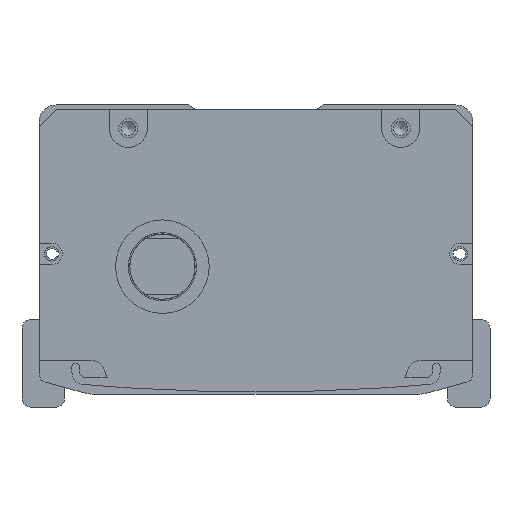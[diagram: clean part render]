
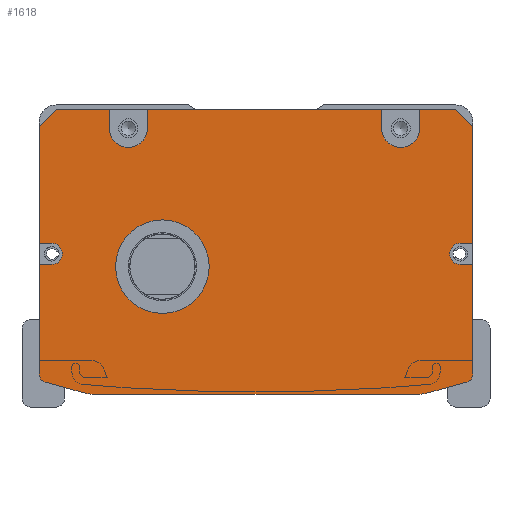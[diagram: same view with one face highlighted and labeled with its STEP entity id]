
A CAD part, front view. The second image highlights one B-rep face of the part: STEP entity #1618.
In plain terms, the highlighted planar face has unit normal (0, -1, 0).
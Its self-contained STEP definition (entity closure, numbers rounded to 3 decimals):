
#974=FACE_BOUND('',#3064,.T.);
#975=FACE_BOUND('',#3065,.T.);
#1618=ADVANCED_FACE('',(#974,#975),#2219,.F.);
#2219=PLANE('',#11855);
#3064=EDGE_LOOP('',(#5417,#5418,#5419,#5420,#5421,#5422,#5423,#5424,#5425,
#5426,#5427,#5428,#5429,#5430,#5431,#5432,#5433,#5434,#5435,#5436,#5437,
#5438,#5439,#5440,#5441,#5442,#5443,#5444));
#3065=EDGE_LOOP('',(#5445));
#4019=CIRCLE('',#11846,4.5);
#4020=CIRCLE('',#11847,4.5);
#4021=CIRCLE('',#11848,2.5);
#4022=CIRCLE('',#11849,2.);
#4023=CIRCLE('',#11850,10.);
#4024=CIRCLE('',#11851,10.);
#4025=CIRCLE('',#11852,2.);
#4026=CIRCLE('',#11853,2.5);
#4027=CIRCLE('',#11854,11.);
#5417=ORIENTED_EDGE('',*,*,#8746,.T.);
#5418=ORIENTED_EDGE('',*,*,#9162,.T.);
#5419=ORIENTED_EDGE('',*,*,#9163,.T.);
#5420=ORIENTED_EDGE('',*,*,#9164,.F.);
#5421=ORIENTED_EDGE('',*,*,#9165,.T.);
#5422=ORIENTED_EDGE('',*,*,#9166,.F.);
#5423=ORIENTED_EDGE('',*,*,#9167,.T.);
#5424=ORIENTED_EDGE('',*,*,#9168,.F.);
#5425=ORIENTED_EDGE('',*,*,#9169,.T.);
#5426=ORIENTED_EDGE('',*,*,#9170,.F.);
#5427=ORIENTED_EDGE('',*,*,#9171,.T.);
#5428=ORIENTED_EDGE('',*,*,#9172,.T.);
#5429=ORIENTED_EDGE('',*,*,#8778,.T.);
#5430=ORIENTED_EDGE('',*,*,#9173,.T.);
#5431=ORIENTED_EDGE('',*,*,#9174,.T.);
#5432=ORIENTED_EDGE('',*,*,#9175,.T.);
#5433=ORIENTED_EDGE('',*,*,#8774,.T.);
#5434=ORIENTED_EDGE('',*,*,#9176,.T.);
#5435=ORIENTED_EDGE('',*,*,#9177,.T.);
#5436=ORIENTED_EDGE('',*,*,#9178,.T.);
#5437=ORIENTED_EDGE('',*,*,#9179,.T.);
#5438=ORIENTED_EDGE('',*,*,#9180,.T.);
#5439=ORIENTED_EDGE('',*,*,#9181,.T.);
#5440=ORIENTED_EDGE('',*,*,#9182,.T.);
#5441=ORIENTED_EDGE('',*,*,#8750,.T.);
#5442=ORIENTED_EDGE('',*,*,#9183,.T.);
#5443=ORIENTED_EDGE('',*,*,#9184,.T.);
#5444=ORIENTED_EDGE('',*,*,#9185,.T.);
#5445=ORIENTED_EDGE('',*,*,#9186,.T.);
#7622=VERTEX_POINT('',#16324);
#7623=VERTEX_POINT('',#16326);
#7626=VERTEX_POINT('',#16332);
#7627=VERTEX_POINT('',#16334);
#7648=VERTEX_POINT('',#16379);
#7649=VERTEX_POINT('',#16381);
#7652=VERTEX_POINT('',#16387);
#7653=VERTEX_POINT('',#16389);
#7916=VERTEX_POINT('',#17182);
#7917=VERTEX_POINT('',#17184);
#7918=VERTEX_POINT('',#17186);
#7919=VERTEX_POINT('',#17188);
#7920=VERTEX_POINT('',#17190);
#7921=VERTEX_POINT('',#17192);
#7922=VERTEX_POINT('',#17194);
#7923=VERTEX_POINT('',#17196);
#7924=VERTEX_POINT('',#17198);
#7925=VERTEX_POINT('',#17200);
#7926=VERTEX_POINT('',#17203);
#7927=VERTEX_POINT('',#17205);
#7928=VERTEX_POINT('',#17208);
#7929=VERTEX_POINT('',#17210);
#7930=VERTEX_POINT('',#17212);
#7931=VERTEX_POINT('',#17214);
#7932=VERTEX_POINT('',#17216);
#7933=VERTEX_POINT('',#17218);
#7934=VERTEX_POINT('',#17221);
#7935=VERTEX_POINT('',#17223);
#7936=VERTEX_POINT('',#17226);
#8746=EDGE_CURVE('',#7623,#7622,#10189,.T.);
#8750=EDGE_CURVE('',#7627,#7626,#10193,.T.);
#8774=EDGE_CURVE('',#7649,#7648,#10217,.T.);
#8778=EDGE_CURVE('',#7653,#7652,#10221,.T.);
#9162=EDGE_CURVE('',#7622,#7916,#10454,.T.);
#9163=EDGE_CURVE('',#7916,#7917,#10455,.T.);
#9164=EDGE_CURVE('',#7918,#7917,#10456,.T.);
#9165=EDGE_CURVE('',#7918,#7919,#4019,.T.);
#9166=EDGE_CURVE('',#7920,#7919,#10457,.T.);
#9167=EDGE_CURVE('',#7920,#7921,#10458,.T.);
#9168=EDGE_CURVE('',#7922,#7921,#10459,.T.);
#9169=EDGE_CURVE('',#7922,#7923,#4020,.T.);
#9170=EDGE_CURVE('',#7924,#7923,#10460,.T.);
#9171=EDGE_CURVE('',#7924,#7925,#10461,.T.);
#9172=EDGE_CURVE('',#7925,#7653,#10462,.T.);
#9173=EDGE_CURVE('',#7652,#7926,#10463,.T.);
#9174=EDGE_CURVE('',#7926,#7927,#4021,.T.);
#9175=EDGE_CURVE('',#7927,#7649,#10464,.T.);
#9176=EDGE_CURVE('',#7648,#7928,#4022,.T.);
#9177=EDGE_CURVE('',#7928,#7929,#10465,.T.);
#9178=EDGE_CURVE('',#7929,#7930,#4023,.T.);
#9179=EDGE_CURVE('',#7930,#7931,#10466,.T.);
#9180=EDGE_CURVE('',#7931,#7932,#4024,.T.);
#9181=EDGE_CURVE('',#7932,#7933,#10467,.T.);
#9182=EDGE_CURVE('',#7933,#7627,#4025,.T.);
#9183=EDGE_CURVE('',#7626,#7934,#10468,.T.);
#9184=EDGE_CURVE('',#7934,#7935,#4026,.T.);
#9185=EDGE_CURVE('',#7935,#7623,#10469,.T.);
#9186=EDGE_CURVE('',#7936,#7936,#4027,.T.);
#10189=LINE('',#16325,#10842);
#10193=LINE('',#16333,#10846);
#10217=LINE('',#16380,#10870);
#10221=LINE('',#16388,#10874);
#10454=LINE('',#17181,#11107);
#10455=LINE('',#17183,#11108);
#10456=LINE('',#17185,#11109);
#10457=LINE('',#17189,#11110);
#10458=LINE('',#17191,#11111);
#10459=LINE('',#17193,#11112);
#10460=LINE('',#17197,#11113);
#10461=LINE('',#17199,#11114);
#10462=LINE('',#17201,#11115);
#10463=LINE('',#17202,#11116);
#10464=LINE('',#17206,#11117);
#10465=LINE('',#17209,#11118);
#10466=LINE('',#17213,#11119);
#10467=LINE('',#17217,#11120);
#10468=LINE('',#17220,#11121);
#10469=LINE('',#17224,#11122);
#10842=VECTOR('',#13034,1.);
#10846=VECTOR('',#13038,1.);
#10870=VECTOR('',#13064,1.);
#10874=VECTOR('',#13068,1.);
#11107=VECTOR('',#13895,1.);
#11108=VECTOR('',#13896,1.);
#11109=VECTOR('',#13897,1.);
#11110=VECTOR('',#13900,1.);
#11111=VECTOR('',#13901,1.);
#11112=VECTOR('',#13902,1.);
#11113=VECTOR('',#13905,1.);
#11114=VECTOR('',#13906,1.);
#11115=VECTOR('',#13907,1.);
#11116=VECTOR('',#13908,1.);
#11117=VECTOR('',#13911,1.);
#11118=VECTOR('',#13914,1.);
#11119=VECTOR('',#13917,1.);
#11120=VECTOR('',#13920,1.);
#11121=VECTOR('',#13923,1.);
#11122=VECTOR('',#13926,1.);
#11846=AXIS2_PLACEMENT_3D('',#17187,#13898,#13899);
#11847=AXIS2_PLACEMENT_3D('',#17195,#13903,#13904);
#11848=AXIS2_PLACEMENT_3D('',#17204,#13909,#13910);
#11849=AXIS2_PLACEMENT_3D('',#17207,#13912,#13913);
#11850=AXIS2_PLACEMENT_3D('',#17211,#13915,#13916);
#11851=AXIS2_PLACEMENT_3D('',#17215,#13918,#13919);
#11852=AXIS2_PLACEMENT_3D('',#17219,#13921,#13922);
#11853=AXIS2_PLACEMENT_3D('',#17222,#13924,#13925);
#11854=AXIS2_PLACEMENT_3D('',#17225,#13927,#13928);
#11855=AXIS2_PLACEMENT_3D('',#17227,#13929,#13930);
#13034=DIRECTION('',(0.,0.,1.));
#13038=DIRECTION('',(0.,0.,1.));
#13064=DIRECTION('',(0.,0.,-1.));
#13068=DIRECTION('',(0.,0.,-1.));
#13895=DIRECTION('',(-0.707,0.,0.707));
#13896=DIRECTION('',(-1.,0.,0.));
#13897=DIRECTION('',(0.,0.,1.));
#13898=DIRECTION('',(0.,1.,0.));
#13899=DIRECTION('',(0.,0.,1.));
#13900=DIRECTION('',(0.,0.,-1.));
#13901=DIRECTION('',(-1.,0.,0.));
#13902=DIRECTION('',(0.,0.,1.));
#13903=DIRECTION('',(0.,1.,0.));
#13904=DIRECTION('',(0.,0.,1.));
#13905=DIRECTION('',(0.,0.,-1.));
#13906=DIRECTION('',(-1.,0.,0.));
#13907=DIRECTION('',(-0.707,0.,-0.707));
#13908=DIRECTION('',(1.,0.,0.));
#13909=DIRECTION('',(0.,1.,0.));
#13910=DIRECTION('',(0.,0.,1.));
#13911=DIRECTION('',(-1.,0.,0.));
#13912=DIRECTION('',(0.,-1.,0.));
#13913=DIRECTION('',(0.,0.,1.));
#13914=DIRECTION('',(0.963,0.,-0.269));
#13915=DIRECTION('',(0.,-1.,0.));
#13916=DIRECTION('',(0.,0.,1.));
#13917=DIRECTION('',(1.,0.,0.));
#13918=DIRECTION('',(0.,-1.,0.));
#13919=DIRECTION('',(0.,0.,-1.));
#13920=DIRECTION('',(0.963,0.,0.269));
#13921=DIRECTION('',(0.,-1.,0.));
#13922=DIRECTION('',(0.,0.,-1.));
#13923=DIRECTION('',(-1.,0.,0.));
#13924=DIRECTION('',(0.,1.,0.));
#13925=DIRECTION('',(0.,0.,1.));
#13926=DIRECTION('',(1.,0.,0.));
#13927=DIRECTION('',(0.,1.,0.));
#13928=DIRECTION('',(0.,0.,1.));
#13929=DIRECTION('',(0.,1.,0.));
#13930=DIRECTION('',(1.,0.,0.));
#16324=CARTESIAN_POINT('',(47.808,-507.5,-5.));
#16325=CARTESIAN_POINT('',(47.808,-507.5,-1.));
#16326=CARTESIAN_POINT('',(47.808,-507.5,-32.5));
#16332=CARTESIAN_POINT('',(47.808,-507.5,-37.5));
#16333=CARTESIAN_POINT('',(47.808,-507.5,-1.));
#16334=CARTESIAN_POINT('',(47.808,-507.5,-63.212));
#16379=CARTESIAN_POINT('',(-54.192,-507.5,-63.212));
#16380=CARTESIAN_POINT('',(-54.192,-507.5,-62.));
#16381=CARTESIAN_POINT('',(-54.192,-507.5,-37.5));
#16387=CARTESIAN_POINT('',(-54.192,-507.5,-32.5));
#16388=CARTESIAN_POINT('',(-54.192,-507.5,-62.));
#16389=CARTESIAN_POINT('',(-54.192,-507.5,-5.));
#17181=CARTESIAN_POINT('',(43.808,-507.5,-1.));
#17182=CARTESIAN_POINT('',(43.808,-507.5,-1.));
#17183=CARTESIAN_POINT('',(-3.192,-507.5,-1.));
#17184=CARTESIAN_POINT('',(35.308,-507.5,-1.));
#17185=CARTESIAN_POINT('',(35.308,-507.5,-1.));
#17186=CARTESIAN_POINT('',(35.308,-507.5,-5.5));
#17187=CARTESIAN_POINT('',(30.808,-507.5,-5.5));
#17188=CARTESIAN_POINT('',(26.308,-507.5,-5.5));
#17189=CARTESIAN_POINT('',(26.308,-507.5,-1.));
#17190=CARTESIAN_POINT('',(26.308,-507.5,-1.));
#17191=CARTESIAN_POINT('',(-54.192,-507.5,-1.));
#17192=CARTESIAN_POINT('',(-28.692,-507.5,-1.));
#17193=CARTESIAN_POINT('',(-28.692,-507.5,-3.5));
#17194=CARTESIAN_POINT('',(-28.692,-507.5,-5.5));
#17195=CARTESIAN_POINT('',(-33.192,-507.5,-5.5));
#17196=CARTESIAN_POINT('',(-37.692,-507.5,-5.5));
#17197=CARTESIAN_POINT('',(-37.692,-507.5,-1.));
#17198=CARTESIAN_POINT('',(-37.692,-507.5,-1.));
#17199=CARTESIAN_POINT('',(-54.192,-507.5,-1.));
#17200=CARTESIAN_POINT('',(-50.192,-507.5,-1.));
#17201=CARTESIAN_POINT('',(-54.192,-507.5,-5.));
#17202=CARTESIAN_POINT('',(-3.192,-507.5,-32.5));
#17203=CARTESIAN_POINT('',(-51.192,-507.5,-32.5));
#17204=CARTESIAN_POINT('',(-51.192,-507.5,-35.));
#17205=CARTESIAN_POINT('',(-51.192,-507.5,-37.5));
#17206=CARTESIAN_POINT('',(-3.192,-507.5,-37.5));
#17207=CARTESIAN_POINT('',(-52.192,-507.5,-63.212));
#17208=CARTESIAN_POINT('',(-52.731,-507.5,-65.138));
#17209=CARTESIAN_POINT('',(-55.807,-507.5,-64.279));
#17210=CARTESIAN_POINT('',(-43.809,-507.5,-67.631));
#17211=CARTESIAN_POINT('',(-41.118,-507.5,-58.));
#17212=CARTESIAN_POINT('',(-41.118,-507.5,-68.));
#17213=CARTESIAN_POINT('',(-54.692,-507.5,-68.));
#17214=CARTESIAN_POINT('',(34.733,-507.5,-68.));
#17215=CARTESIAN_POINT('',(34.733,-507.5,-58.));
#17216=CARTESIAN_POINT('',(37.424,-507.5,-67.631));
#17217=CARTESIAN_POINT('',(49.422,-507.5,-64.279));
#17218=CARTESIAN_POINT('',(46.346,-507.5,-65.138));
#17219=CARTESIAN_POINT('',(45.808,-507.5,-63.212));
#17220=CARTESIAN_POINT('',(-3.192,-507.5,-37.5));
#17221=CARTESIAN_POINT('',(44.808,-507.5,-37.5));
#17222=CARTESIAN_POINT('',(44.808,-507.5,-35.));
#17223=CARTESIAN_POINT('',(44.808,-507.5,-32.5));
#17224=CARTESIAN_POINT('',(-3.192,-507.5,-32.5));
#17225=CARTESIAN_POINT('',(-25.192,-507.5,-38.));
#17226=CARTESIAN_POINT('',(-25.192,-507.5,-27.));
#17227=CARTESIAN_POINT('',(-3.192,-507.5,-1.));
